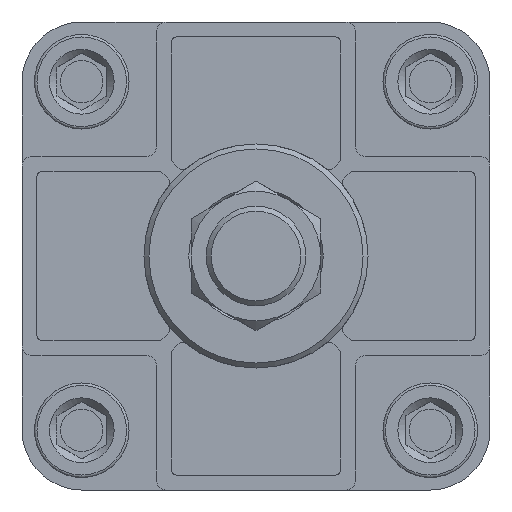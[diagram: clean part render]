
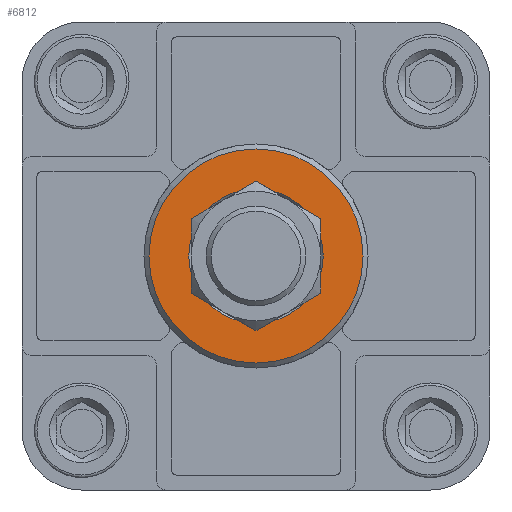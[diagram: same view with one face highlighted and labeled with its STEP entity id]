
A CAD part, front view. The second image highlights one B-rep face of the part: STEP entity #6812.
In plain terms, the highlighted planar face has unit normal (0, -1, 0).
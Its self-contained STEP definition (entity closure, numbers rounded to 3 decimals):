
#1101=ORIENTED_EDGE('',*,*,#2532,.T.);
#1102=ORIENTED_EDGE('',*,*,#2534,.T.);
#2532=EDGE_CURVE('',#3250,#3250,#3746,.T.);
#2534=EDGE_CURVE('',#3252,#3252,#3748,.F.);
#3250=VERTEX_POINT('',#9354);
#3252=VERTEX_POINT('',#9360);
#3746=CIRCLE('',#7154,13.5);
#3748=CIRCLE('',#7158,21.5);
#4016=EDGE_LOOP('',(#1101));
#4017=EDGE_LOOP('',(#1102));
#4436=FACE_BOUND('',#4016,.T.);
#4437=FACE_BOUND('',#4017,.T.);
#4848=PLANE('',#7157);
#6812=ADVANCED_FACE('',(#4436,#4437),#4848,.F.);
#7154=AXIS2_PLACEMENT_3D('',#9353,#7756,#7757);
#7157=AXIS2_PLACEMENT_3D('',#9358,#7762,#7763);
#7158=AXIS2_PLACEMENT_3D('',#9359,#7764,#7765);
#7756=DIRECTION('',(0.,1.,0.));
#7757=DIRECTION('',(0.,0.,1.));
#7762=DIRECTION('',(0.,1.,0.));
#7763=DIRECTION('',(0.,0.,1.));
#7764=DIRECTION('',(0.,1.,0.));
#7765=DIRECTION('',(0.,0.,1.));
#9353=CARTESIAN_POINT('',(0.,-56.,0.));
#9354=CARTESIAN_POINT('',(0.,-56.,13.5));
#9358=CARTESIAN_POINT('',(0.,-56.,0.));
#9359=CARTESIAN_POINT('',(0.,-56.,0.));
#9360=CARTESIAN_POINT('',(0.,-56.,21.5));
